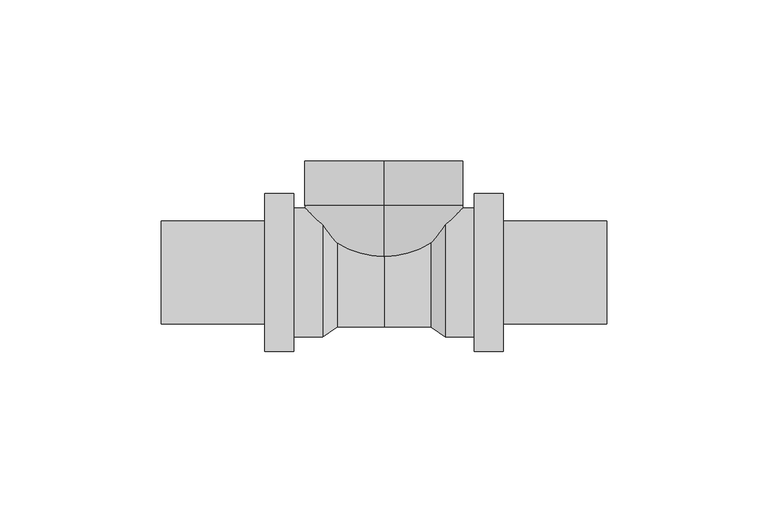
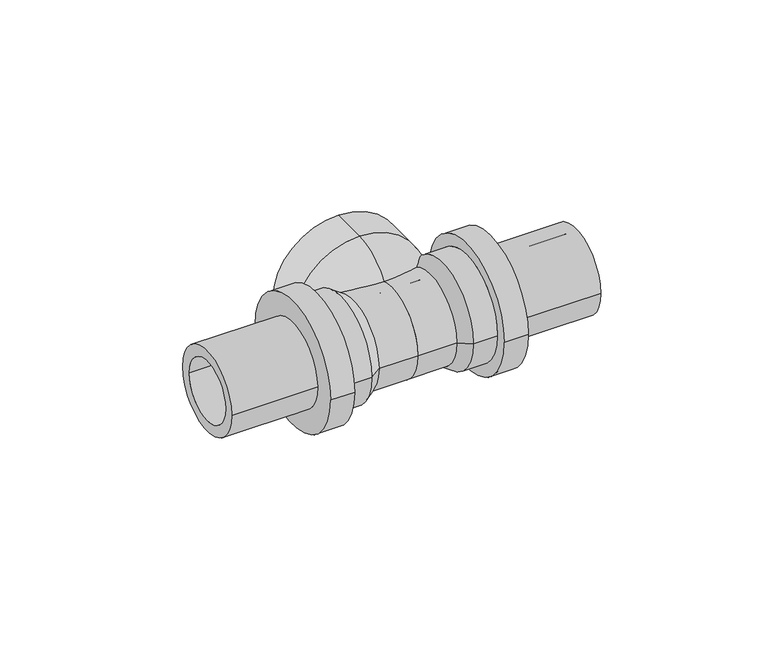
"""IFC4 building model written with IfcOpenShell, lengths in millimetres: pipe fitting geometry, REHAU_RAUTITAN_T-piece RX+, outlet with internal thread : REHAU_RAUTITAN_T-piece RX+, outlet with internal thread."""

from ifc_helpers import new_model, si_unit, point, frame, origin, place, context, project, spatial, polyline, circle_curve, ellipse_curve, trimmed, source, transform, mapped, element, save
from ifc_brep_helpers import plane_surface, cylinder_surface, revolved_surface, advanced_brep


def pipe_fitting_5518694d(model_context):
    return source(origin(), model_context, "Body", "AdvancedBrep", [
        advanced_brep(
        [(-37.01, 15.995, 0.0), (-37.01, -15.995, 0.0), (-69.0, -15.995, 0.0), (-69.0, 15.995, 0.0), (-28.01, 24.49, 0.0), (-28.01, -24.49, 0.0), (-37.01, -24.49, 0.0), (-37.01, 24.49, 0.0), (-19.01, 20.0, 0.0), (-19.01, -20.0, 0.0), (-28.01, -20.0, 0.0), (-28.01, 20.0, 0.0), (-14.51, 16.925, 0.0), (-14.51, -16.925, 0.0), (0.0, 16.925, 0.0), (0.0, -16.925, 0.0), (-14.51, 12.495, 0.0), (-14.51, -12.495, 0.0), (0.0, -12.495, 0.0), (0.0, 12.495, 0.0), (-19.01, 11.755, 0.0), (-19.01, -11.755, 0.0), (-69.0, 11.755, 0.0), (-69.0, -11.755, 0.0)],
        [
            (0, 1, circle_curve(frame((-37.01, 0.0, 0.0), z_axis=(-1.0, 0.0, 0.0), x_axis=(0.0, -1.0, 0.0)), 15.995)),
            (1, 2),
            (2, 3, circle_curve(frame((-69.0, 0.0, 0.0), z_axis=(1.0, 0.0, 0.0), x_axis=(0.0, -1.0, 0.0)), 15.995)),
            (3, 0),
            (4, 5, circle_curve(frame((-28.01, 0.0, 0.0), z_axis=(-1.0, 0.0, 0.0), x_axis=(0.0, -1.0, 0.0)), 24.49)),
            (5, 6),
            (6, 7, circle_curve(frame((-37.01, 0.0, 0.0), z_axis=(1.0, 0.0, 0.0), x_axis=(0.0, -1.0, 0.0)), 24.49)),
            (7, 4),
            (8, 9, circle_curve(frame((-19.01, 0.0, 0.0), z_axis=(-1.0, 0.0, 0.0), x_axis=(0.0, -1.0, 0.0)), 20.0)),
            (9, 10),
            (10, 11, circle_curve(frame((-28.01, 0.0, 0.0), z_axis=(1.0, 0.0, 0.0), x_axis=(0.0, -1.0, 0.0)), 20.0)),
            (11, 8),
            (12, 13, circle_curve(frame((-14.51, 0.0, 0.0), z_axis=(-1.0, 0.0, 0.0), x_axis=(0.0, -1.0, 0.0)), 16.925)),
            (13, 9),
            (8, 12),
            (14, 15, circle_curve(frame((0.0, 0.0, 0.0), z_axis=(-1.0, 0.0, 0.0), x_axis=(0.0, -1.0, 0.0)), 16.925)),
            (15, 13),
            (12, 14),
            (16, 17, circle_curve(frame((-14.51, 0.0, 0.0), z_axis=(-1.0, 0.0, 0.0), x_axis=(0.0, -1.0, 0.0)), 12.495)),
            (17, 18),
            (18, 19, circle_curve(frame((0.0, 0.0, 0.0), z_axis=(1.0, 0.0, 0.0), x_axis=(0.0, -1.0, 0.0)), 12.495)),
            (19, 16),
            (20, 21, circle_curve(frame((-19.01, 0.0, 0.0), z_axis=(-1.0, 0.0, 0.0), x_axis=(0.0, -1.0, 0.0)), 11.755)),
            (21, 17),
            (16, 20),
            (22, 23, circle_curve(frame((-69.0, 0.0, 0.0), z_axis=(-1.0, 0.0, 0.0), x_axis=(0.0, -1.0, 0.0)), 11.755)),
            (23, 21),
            (20, 22),
            (1, 0, circle_curve(frame((-37.01, 0.0, 0.0), z_axis=(-1.0, 0.0, 0.0), x_axis=(0.0, 1.0, 0.0)), 15.995)),
            (3, 2, circle_curve(frame((-69.0, 0.0, 0.0), z_axis=(1.0, 0.0, 0.0), x_axis=(0.0, 1.0, 0.0)), 15.995)),
            (6, 7, circle_curve(frame((-37.01, 0.0, 0.0), z_axis=(-1.0, 0.0, 0.0), x_axis=(0.0, 1.0, 0.0)), 24.49)),
            (5, 4, circle_curve(frame((-28.01, 0.0, 0.0), z_axis=(-1.0, 0.0, 0.0), x_axis=(0.0, 1.0, 0.0)), 24.49)),
            (10, 11, circle_curve(frame((-28.01, 0.0, 0.0), z_axis=(-1.0, 0.0, 0.0), x_axis=(0.0, 1.0, 0.0)), 20.0)),
            (9, 8, circle_curve(frame((-19.01, 0.0, 0.0), z_axis=(-1.0, 0.0, 0.0), x_axis=(0.0, 1.0, 0.0)), 20.0)),
            (13, 12, circle_curve(frame((-14.51, 0.0, 0.0), z_axis=(-1.0, 0.0, 0.0), x_axis=(0.0, 1.0, 0.0)), 16.925)),
            (15, 14, circle_curve(frame((0.0, 0.0, 0.0), z_axis=(-1.0, 0.0, 0.0), x_axis=(0.0, 1.0, 0.0)), 16.925)),
            (18, 19, circle_curve(frame((0.0, 0.0, 0.0), z_axis=(-1.0, 0.0, 0.0), x_axis=(0.0, 1.0, 0.0)), 12.495)),
            (17, 16, circle_curve(frame((-14.51, 0.0, 0.0), z_axis=(-1.0, 0.0, 0.0), x_axis=(0.0, 1.0, 0.0)), 12.495)),
            (21, 20, circle_curve(frame((-19.01, 0.0, 0.0), z_axis=(-1.0, 0.0, 0.0), x_axis=(0.0, 1.0, 0.0)), 11.755)),
            (23, 22, circle_curve(frame((-69.0, 0.0, 0.0), z_axis=(-1.0, 0.0, 0.0), x_axis=(0.0, 1.0, 0.0)), 11.755)),
        ],
        [
            cylinder_surface(frame((0.0, 0.0, 0.0), z_axis=(1.0, 0.0, 0.0), x_axis=(0.0, -1.0, 0.0)), 15.995),
            cylinder_surface(frame((0.0, 0.0, 0.0), z_axis=(1.0, 0.0, 0.0), x_axis=(0.0, -1.0, 0.0)), 24.49),
            cylinder_surface(frame((0.0, 0.0, 0.0), z_axis=(1.0, 0.0, 0.0), x_axis=(0.0, -1.0, 0.0)), 20.0),
            revolved_surface(polyline([(-19.01, -20.0, 0.0), (-14.51, -16.925, 0.0)]), (0.0, 0.0, 0.0), (1.0, 0.0, 0.0)),
            cylinder_surface(frame((0.0, 0.0, 0.0), z_axis=(1.0, 0.0, 0.0), x_axis=(0.0, -1.0, 0.0)), 16.925),
            revolved_surface(polyline([(0.0, -12.495, 0.0), (-14.51, -12.495, 0.0)]), (0.0, 0.0, 0.0), (1.0, 0.0, 0.0)),
            revolved_surface(polyline([(-14.51, -12.495, 0.0), (-19.01, -11.755, 0.0)]), (0.0, 0.0, 0.0), (1.0, 0.0, 0.0)),
            revolved_surface(polyline([(-19.01, -11.755, 0.0), (-69.0, -11.755, 0.0)]), (0.0, 0.0, 0.0), (1.0, 0.0, 0.0)),
            cylinder_surface(frame((0.0, 0.0, 0.0), z_axis=(1.0, 0.0, 0.0), x_axis=(0.0, 1.0, 0.0)), 15.995),
            plane_surface(frame((-37.01, 0.0, 0.0), z_axis=(-1.0, 0.0, 0.0), x_axis=(0.0, 1.0, 0.0))),
            cylinder_surface(frame((0.0, 0.0, 0.0), z_axis=(1.0, 0.0, 0.0), x_axis=(0.0, 1.0, 0.0)), 24.49),
            plane_surface(frame((-28.01, 0.0, 0.0), z_axis=(1.0, 0.0, 0.0), x_axis=(0.0, 1.0, 0.0))),
            cylinder_surface(frame((0.0, 0.0, 0.0), z_axis=(1.0, 0.0, 0.0), x_axis=(0.0, 1.0, 0.0)), 20.0),
            revolved_surface(polyline([(-19.01, 20.0, 0.0), (-14.51, 16.925, 0.0)]), (0.0, 0.0, 0.0), (1.0, 0.0, 0.0)),
            cylinder_surface(frame((0.0, 0.0, 0.0), z_axis=(1.0, 0.0, 0.0), x_axis=(0.0, 1.0, 0.0)), 16.925),
            plane_surface(frame((0.0, 0.0, 0.0), z_axis=(1.0, 0.0, 0.0), x_axis=(0.0, 1.0, 0.0))),
            revolved_surface(polyline([(0.0, 12.495, 0.0), (-14.51, 12.495, 0.0)]), (0.0, 0.0, 0.0), (1.0, 0.0, 0.0)),
            revolved_surface(polyline([(-14.51, 12.495, 0.0), (-19.01, 11.755, 0.0)]), (0.0, 0.0, 0.0), (1.0, 0.0, 0.0)),
            revolved_surface(polyline([(-19.01, 11.755, 0.0), (-69.0, 11.755, 0.0)]), (0.0, 0.0, 0.0), (1.0, 0.0, 0.0)),
            plane_surface(frame((-69.0, 0.0, 0.0), z_axis=(-1.0, 0.0, 0.0), x_axis=(0.0, 1.0, 0.0))),
        ],
        [
            (0, [[1, 2, 3, 4]]),
            (1, [[5, 6, 7, 8]]),
            (2, [[9, 10, 11, 12]]),
            (3, [[13, 14, -9, 15]]),
            (4, [[16, 17, -13, 18]]),
            (5, [[19, 20, 21, 22]]),
            (6, [[23, 24, -19, 25]]),
            (7, [[26, 27, -23, 28]]),
            (8, [[29, -4, 30, -2]]),
            (9, [[31, -7], [-29, -1]]),
            (10, [[32, -8, -31, -6]]),
            (11, [[-32, -5], [33, -11]]),
            (12, [[34, -12, -33, -10]]),
            (13, [[35, -15, -34, -14]]),
            (14, [[36, -18, -35, -17]]),
            (15, [[-36, -16], [37, -21]]),
            (16, [[38, -22, -37, -20]]),
            (17, [[39, -25, -38, -24]]),
            (18, [[40, -28, -39, -27]]),
            (19, [[-30, -3], [-40, -26]]),
        ],
    ),
        advanced_brep(
        [(19.01, 11.755, 0.0), (19.01, -11.755, 0.0), (69.0, -11.755, 0.0), (69.0, 11.755, 0.0), (14.51, 12.495, 0.0), (14.51, -12.495, 0.0), (0.0, 12.495, 0.0), (0.0, -12.495, 0.0), (14.51, 16.925, 0.0), (14.51, -16.925, 0.0), (0.0, -16.925, 0.0), (0.0, 16.925, 0.0), (19.01, 20.0, 0.0), (19.01, -20.0, 0.0), (28.01, 20.0, 0.0), (28.01, -20.0, 0.0), (37.01, 24.49, 0.0), (37.01, -24.49, 0.0), (28.01, -24.49, 0.0), (28.01, 24.49, 0.0), (69.0, 15.995, 0.0), (69.0, -15.995, 0.0), (37.01, -15.995, 0.0), (37.01, 15.995, 0.0)],
        [
            (0, 1, circle_curve(frame((19.01, 0.0, 0.0), z_axis=(-1.0, 0.0, 0.0), x_axis=(0.0, -1.0, 0.0)), 11.755)),
            (1, 2),
            (2, 3, circle_curve(frame((69.0, 0.0, 0.0), z_axis=(1.0, 0.0, 0.0), x_axis=(0.0, -1.0, 0.0)), 11.755)),
            (3, 0),
            (4, 5, circle_curve(frame((14.51, 0.0, 0.0), z_axis=(-1.0, 0.0, 0.0), x_axis=(0.0, -1.0, 0.0)), 12.495)),
            (5, 1),
            (0, 4),
            (6, 7, circle_curve(frame((0.0, 0.0, 0.0), z_axis=(-1.0, 0.0, 0.0), x_axis=(0.0, -1.0, 0.0)), 12.495)),
            (7, 5),
            (4, 6),
            (8, 9, circle_curve(frame((14.51, 0.0, 0.0), z_axis=(-1.0, 0.0, 0.0), x_axis=(0.0, -1.0, 0.0)), 16.925)),
            (9, 10),
            (10, 11, circle_curve(frame((0.0, 0.0, 0.0), z_axis=(1.0, 0.0, 0.0), x_axis=(0.0, -1.0, 0.0)), 16.925)),
            (11, 8),
            (12, 13, circle_curve(frame((19.01, 0.0, 0.0), z_axis=(-1.0, 0.0, 0.0), x_axis=(0.0, -1.0, 0.0)), 20.0)),
            (13, 9),
            (8, 12),
            (14, 15, circle_curve(frame((28.01, 0.0, 0.0), z_axis=(-1.0, 0.0, 0.0), x_axis=(0.0, -1.0, 0.0)), 20.0)),
            (15, 13),
            (12, 14),
            (16, 17, circle_curve(frame((37.01, 0.0, 0.0), z_axis=(-1.0, 0.0, 0.0), x_axis=(0.0, -1.0, 0.0)), 24.49)),
            (17, 18),
            (18, 19, circle_curve(frame((28.01, 0.0, 0.0), z_axis=(1.0, 0.0, 0.0), x_axis=(0.0, -1.0, 0.0)), 24.49)),
            (19, 16),
            (20, 21, circle_curve(frame((69.0, 0.0, 0.0), z_axis=(-1.0, 0.0, 0.0), x_axis=(0.0, -1.0, 0.0)), 15.995)),
            (21, 22),
            (22, 23, circle_curve(frame((37.01, 0.0, 0.0), z_axis=(1.0, 0.0, 0.0), x_axis=(0.0, -1.0, 0.0)), 15.995)),
            (23, 20),
            (20, 21, circle_curve(frame((69.0, 0.0, 0.0), z_axis=(1.0, 0.0, 0.0), x_axis=(0.0, 1.0, 0.0)), 15.995)),
            (2, 3, circle_curve(frame((69.0, 0.0, 0.0), z_axis=(-1.0, 0.0, 0.0), x_axis=(0.0, 1.0, 0.0)), 11.755)),
            (1, 0, circle_curve(frame((19.01, 0.0, 0.0), z_axis=(-1.0, 0.0, 0.0), x_axis=(0.0, 1.0, 0.0)), 11.755)),
            (5, 4, circle_curve(frame((14.51, 0.0, 0.0), z_axis=(-1.0, 0.0, 0.0), x_axis=(0.0, 1.0, 0.0)), 12.495)),
            (7, 6, circle_curve(frame((0.0, 0.0, 0.0), z_axis=(-1.0, 0.0, 0.0), x_axis=(0.0, 1.0, 0.0)), 12.495)),
            (10, 11, circle_curve(frame((0.0, 0.0, 0.0), z_axis=(-1.0, 0.0, 0.0), x_axis=(0.0, 1.0, 0.0)), 16.925)),
            (9, 8, circle_curve(frame((14.51, 0.0, 0.0), z_axis=(-1.0, 0.0, 0.0), x_axis=(0.0, 1.0, 0.0)), 16.925)),
            (13, 12, circle_curve(frame((19.01, 0.0, 0.0), z_axis=(-1.0, 0.0, 0.0), x_axis=(0.0, 1.0, 0.0)), 20.0)),
            (15, 14, circle_curve(frame((28.01, 0.0, 0.0), z_axis=(-1.0, 0.0, 0.0), x_axis=(0.0, 1.0, 0.0)), 20.0)),
            (18, 19, circle_curve(frame((28.01, 0.0, 0.0), z_axis=(-1.0, 0.0, 0.0), x_axis=(0.0, 1.0, 0.0)), 24.49)),
            (17, 16, circle_curve(frame((37.01, 0.0, 0.0), z_axis=(-1.0, 0.0, 0.0), x_axis=(0.0, 1.0, 0.0)), 24.49)),
            (22, 23, circle_curve(frame((37.01, 0.0, 0.0), z_axis=(-1.0, 0.0, 0.0), x_axis=(0.0, 1.0, 0.0)), 15.995)),
        ],
        [
            revolved_surface(polyline([(69.0, -11.755, 0.0), (19.01, -11.755, 0.0)]), (0.0, 0.0, 0.0), (1.0, 0.0, 0.0)),
            revolved_surface(polyline([(19.01, -11.755, 0.0), (14.51, -12.495, 0.0)]), (0.0, 0.0, 0.0), (1.0, 0.0, 0.0)),
            revolved_surface(polyline([(14.51, -12.495, 0.0), (0.0, -12.495, 0.0)]), (0.0, 0.0, 0.0), (1.0, 0.0, 0.0)),
            cylinder_surface(frame((0.0, 0.0, 0.0), z_axis=(1.0, 0.0, 0.0), x_axis=(0.0, -1.0, 0.0)), 16.925),
            revolved_surface(polyline([(14.51, -16.925, 0.0), (19.01, -20.0, 0.0)]), (0.0, 0.0, 0.0), (1.0, 0.0, 0.0)),
            cylinder_surface(frame((0.0, 0.0, 0.0), z_axis=(1.0, 0.0, 0.0), x_axis=(0.0, -1.0, 0.0)), 20.0),
            cylinder_surface(frame((0.0, 0.0, 0.0), z_axis=(1.0, 0.0, 0.0), x_axis=(0.0, -1.0, 0.0)), 24.49),
            cylinder_surface(frame((0.0, 0.0, 0.0), z_axis=(1.0, 0.0, 0.0), x_axis=(0.0, -1.0, 0.0)), 15.995),
            plane_surface(frame((69.0, 0.0, 0.0), z_axis=(1.0, 0.0, 0.0), x_axis=(0.0, 1.0, 0.0))),
            revolved_surface(polyline([(69.0, 11.755, 0.0), (19.01, 11.755, 0.0)]), (0.0, 0.0, 0.0), (1.0, 0.0, 0.0)),
            revolved_surface(polyline([(19.01, 11.755, 0.0), (14.51, 12.495, 0.0)]), (0.0, 0.0, 0.0), (1.0, 0.0, 0.0)),
            revolved_surface(polyline([(14.51, 12.495, 0.0), (0.0, 12.495, 0.0)]), (0.0, 0.0, 0.0), (1.0, 0.0, 0.0)),
            plane_surface(frame((0.0, 0.0, 0.0), z_axis=(-1.0, 0.0, 0.0), x_axis=(0.0, 1.0, 0.0))),
            cylinder_surface(frame((0.0, 0.0, 0.0), z_axis=(1.0, 0.0, 0.0), x_axis=(0.0, 1.0, 0.0)), 16.925),
            revolved_surface(polyline([(14.51, 16.925, 0.0), (19.01, 20.0, 0.0)]), (0.0, 0.0, 0.0), (1.0, 0.0, 0.0)),
            cylinder_surface(frame((0.0, 0.0, 0.0), z_axis=(1.0, 0.0, 0.0), x_axis=(0.0, 1.0, 0.0)), 20.0),
            plane_surface(frame((28.01, 0.0, 0.0), z_axis=(-1.0, 0.0, 0.0), x_axis=(0.0, 1.0, 0.0))),
            cylinder_surface(frame((0.0, 0.0, 0.0), z_axis=(1.0, 0.0, 0.0), x_axis=(0.0, 1.0, 0.0)), 24.49),
            plane_surface(frame((37.01, 0.0, 0.0), z_axis=(1.0, 0.0, 0.0), x_axis=(0.0, 1.0, 0.0))),
            cylinder_surface(frame((0.0, 0.0, 0.0), z_axis=(1.0, 0.0, 0.0), x_axis=(0.0, 1.0, 0.0)), 15.995),
        ],
        [
            (0, [[1, 2, 3, 4]]),
            (1, [[5, 6, -1, 7]]),
            (2, [[8, 9, -5, 10]]),
            (3, [[11, 12, 13, 14]]),
            (4, [[15, 16, -11, 17]]),
            (5, [[18, 19, -15, 20]]),
            (6, [[21, 22, 23, 24]]),
            (7, [[25, 26, 27, 28]]),
            (8, [[29, -25], [30, -3]]),
            (9, [[31, -4, -30, -2]]),
            (10, [[32, -7, -31, -6]]),
            (11, [[33, -10, -32, -9]]),
            (12, [[34, -13], [-33, -8]]),
            (13, [[35, -14, -34, -12]]),
            (14, [[36, -17, -35, -16]]),
            (15, [[37, -20, -36, -19]]),
            (16, [[38, -23], [-37, -18]]),
            (17, [[39, -24, -38, -22]]),
            (18, [[-39, -21], [40, -27]]),
            (19, [[-29, -28, -40, -26]]),
        ],
    ),
        advanced_brep(
        [(0.0, 0.9112966, 5.23), (0.0, 0.9112966, -5.23), (0.0, 20.76, -24.585), (0.0, 20.76, 24.585), (0.0, 5.6432667, 5.23), (0.0, 5.6432667, -5.23), (0.0, 20.76, 19.855), (0.0, 20.76, -19.855), (0.0, 34.5, 19.855), (0.0, 34.5, -19.855), (0.0, 34.5, -24.585), (0.0, 34.5, 24.585)],
        [
            (0, 1, circle_curve(frame((0.0, 0.9112966, 0.0), z_axis=(0.0, 1.0, 0.0), x_axis=(0.0, 0.0, -1.0)), 5.23)),
            (1, 2, circle_curve(frame((0.0, 20.76, -4.73), z_axis=(1.0, 0.0, 0.0), x_axis=(0.0, 1.0, 0.0)), 19.855)),
            (2, 3, circle_curve(frame((0.0, 20.76, 0.0), z_axis=(0.0, -1.0, 0.0), x_axis=(0.0, 0.0, -1.0)), 24.585)),
            (3, 0, circle_curve(frame((0.0, 20.76, 4.73), z_axis=(1.0, 0.0, 0.0), x_axis=(0.0, 1.0, 0.0)), 19.855)),
            (4, 5, circle_curve(frame((0.0, 5.6432667, 0.0), z_axis=(0.0, 1.0, 0.0), x_axis=(0.0, 0.0, -1.0)), 5.23)),
            (5, 1),
            (0, 4),
            (6, 7, circle_curve(frame((0.0, 20.76, 0.0), z_axis=(0.0, 1.0, 0.0), x_axis=(0.0, 0.0, -1.0)), 19.855)),
            (7, 5, circle_curve(frame((0.0, 20.76, -4.73), z_axis=(-1.0, 0.0, 0.0), x_axis=(0.0, 1.0, 0.0)), 15.125)),
            (4, 6, circle_curve(frame((0.0, 20.76, 4.73), z_axis=(-1.0, 0.0, 0.0), x_axis=(0.0, 1.0, 0.0)), 15.125)),
            (8, 9, circle_curve(frame((0.0, 34.5, 0.0), z_axis=(0.0, 1.0, 0.0), x_axis=(0.0, 0.0, -1.0)), 19.855)),
            (9, 7),
            (6, 8),
            (2, 10),
            (10, 11, circle_curve(frame((0.0, 34.5, 0.0), z_axis=(0.0, -1.0, 0.0), x_axis=(0.0, 0.0, -1.0)), 24.585)),
            (11, 3),
            (1, 0, circle_curve(frame((0.0, 0.9112966, 0.0), z_axis=(0.0, 1.0, 0.0), x_axis=(0.0, 0.0, 1.0)), 5.23)),
            (3, 2, circle_curve(frame((0.0, 20.76, 0.0), z_axis=(0.0, -1.0, 0.0), x_axis=(0.0, 0.0, 1.0)), 24.585)),
            (5, 4, circle_curve(frame((0.0, 5.6432667, 0.0), z_axis=(0.0, 1.0, 0.0), x_axis=(0.0, 0.0, 1.0)), 5.23)),
            (7, 6, circle_curve(frame((0.0, 20.76, 0.0), z_axis=(0.0, 1.0, 0.0), x_axis=(0.0, 0.0, 1.0)), 19.855)),
            (9, 8, circle_curve(frame((0.0, 34.5, 0.0), z_axis=(0.0, 1.0, 0.0), x_axis=(0.0, 0.0, 1.0)), 19.855)),
            (10, 11, circle_curve(frame((0.0, 34.5, 0.0), z_axis=(0.0, 1.0, 0.0), x_axis=(0.0, 0.0, 1.0)), 24.585)),
        ],
        [
            revolved_surface(trimmed(ellipse_curve(frame((0.0, 20.76, -4.73), z_axis=(-1.0, 0.0, 0.0), x_axis=(0.0, 1.0, 0.0)), 19.855, 19.855), [point((0.0, 20.76, -24.585))], [point((0.0, 0.9112966, -5.23))], True, "CARTESIAN"), (0.0, 0.0, 0.0), (0.0, -1.0, 0.0)),
            revolved_surface(polyline([(0.0, 0.9112966, -5.23), (0.0, 5.6432667, -5.23)]), (0.0, 0.0, 0.0), (0.0, -1.0, 0.0)),
            revolved_surface(trimmed(ellipse_curve(frame((0.0, 20.76, -4.73), z_axis=(1.0, 0.0, 0.0), x_axis=(0.0, 1.0, 0.0)), 15.125, 15.125), [point((0.0, 5.6432667, -5.23))], [point((0.0, 20.76, -19.855))], True, "CARTESIAN"), (0.0, 0.0, 0.0), (0.0, -1.0, 0.0)),
            revolved_surface(polyline([(0.0, 20.76, -19.855), (0.0, 34.5, -19.855)]), (0.0, 0.0, 0.0), (0.0, -1.0, 0.0)),
            cylinder_surface(frame((0.0, 0.0, 0.0), z_axis=(0.0, -1.0, 0.0), x_axis=(0.0, 0.0, -1.0)), 24.585),
            revolved_surface(trimmed(ellipse_curve(frame((0.0, 20.76, 4.73), z_axis=(1.0, 0.0, 0.0), x_axis=(0.0, 1.0, 0.0)), 19.855, 19.855), [point((0.0, 20.76, 24.585))], [point((0.0, 0.9112966, 5.23))], True, "CARTESIAN"), (0.0, 0.0, 0.0), (0.0, -1.0, 0.0)),
            revolved_surface(polyline([(0.0, 0.9112966, 5.23), (0.0, 5.6432667, 5.23)]), (0.0, 0.0, 0.0), (0.0, -1.0, 0.0)),
            revolved_surface(trimmed(ellipse_curve(frame((0.0, 20.76, 4.73), z_axis=(-1.0, 0.0, 0.0), x_axis=(0.0, 1.0, 0.0)), 15.125, 15.125), [point((0.0, 5.6432667, 5.23))], [point((0.0, 20.76, 19.855))], True, "CARTESIAN"), (0.0, 0.0, 0.0), (0.0, -1.0, 0.0)),
            revolved_surface(polyline([(0.0, 20.76, 19.855), (0.0, 34.5, 19.855)]), (0.0, 0.0, 0.0), (0.0, -1.0, 0.0)),
            plane_surface(frame((0.0, 34.5, 0.0), z_axis=(0.0, 1.0, 0.0), x_axis=(0.0, 0.0, 1.0))),
            cylinder_surface(frame((0.0, 0.0, 0.0), z_axis=(0.0, -1.0, 0.0), x_axis=(0.0, 0.0, 1.0)), 24.585),
        ],
        [
            (0, [[1, 2, 3, 4]]),
            (1, [[5, 6, -1, 7]]),
            (2, [[8, 9, -5, 10]]),
            (3, [[11, 12, -8, 13]]),
            (4, [[-3, 14, 15, 16]]),
            (5, [[17, -4, 18, -2]]),
            (6, [[19, -7, -17, -6]]),
            (7, [[20, -10, -19, -9]]),
            (8, [[21, -13, -20, -12]]),
            (9, [[22, -15], [-21, -11]]),
            (10, [[-18, -16, -22, -14]]),
        ],
    ),
    ])


if __name__ == "__main__":
    model = new_model("IFC4")
    model_context = context("Model", 3, world=origin())
    ifc_project = project(units=[si_unit("LENGTHUNIT", "METRE", prefix="MILLI")], contexts=[model_context])
    site = spatial("IfcSite", under=ifc_project)
    building = spatial("IfcBuilding", under=site)
    placement = place(None, origin())
    pipe_fitting_shape = pipe_fitting_5518694d(model_context)
    element("IfcPipeFitting", 1, ObjectType="REHAU_RAUTITAN_T-piece RX+, outlet with internal thread : REHAU_RAUTITAN_T-piece RX+, outlet with internal thread", at=placement, inside=building, context=model_context, shape_type="MappedRepresentation", body=[
        mapped(pipe_fitting_shape, transform((0.0, 0.0, 0.0), x_axis=(1.0, 0.0, 0.0), y_axis=(0.0, 1.0, 0.0), z_axis=(0.0, 0.0, 1.0))),
    ])
    save(model, "model.ifc")
